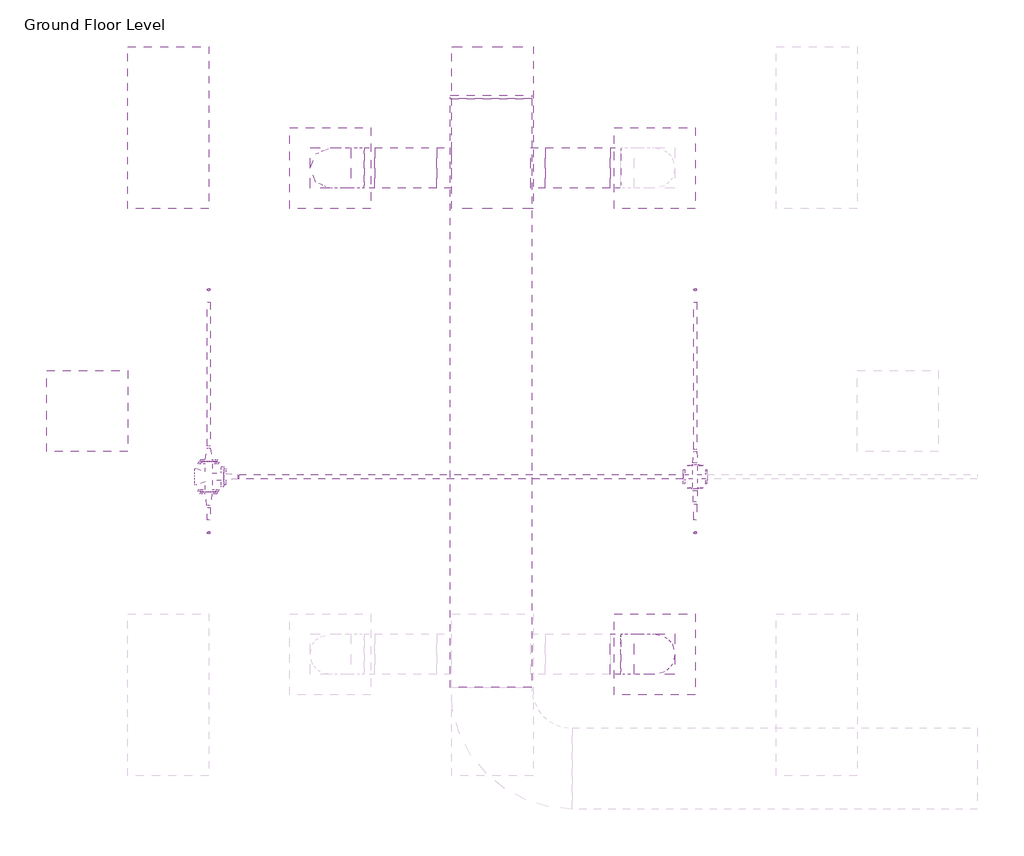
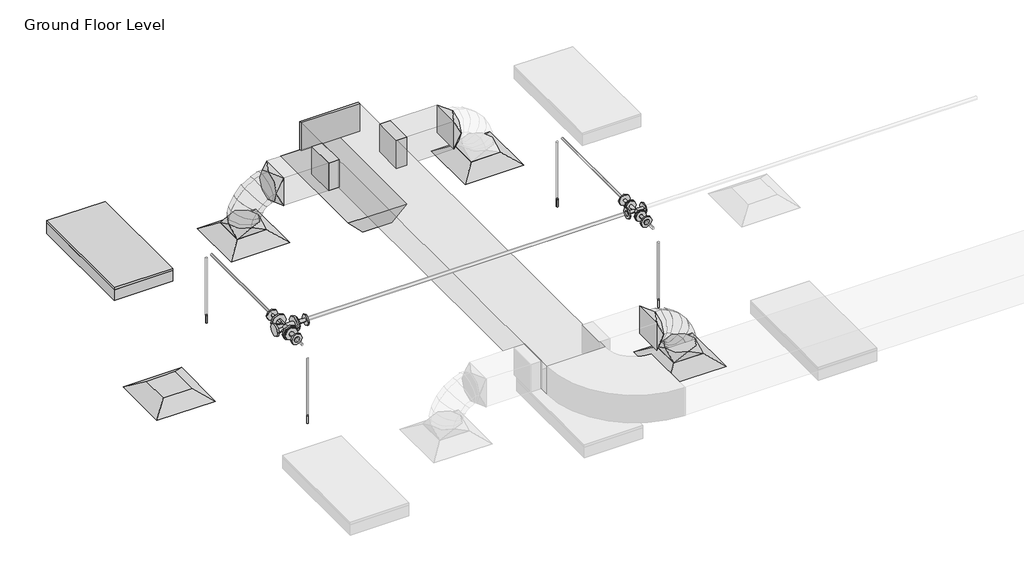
# One storey, part 10 of 74: 9 pipe segments, 8 duct fittings, 7 pipe fittings, 5 duct segments, 4 air terminals, 4 fire suppression terminals, 2 light fixtures.
"""IFC4 building model written with IfcOpenShell, lengths in millimetres."""

from ifc_helpers import new_model, si_unit, point, frame, frame_2d, origin, place, context, project, spatial, polyline, circle_curve, ellipse_curve, trimmed, segment, composite_curve, outline, extrude, transform, mapped, element, save
from ifc_brep_helpers import plane_surface, cylinder_surface, advanced_brep
from components import m_return_diffuser_600_x_600_face_300_x_300_connection_ff221211, m_rectangular_endcap_standard_0f0ff112, m_rectangular_takeoff_standard_cb0ccb98, m_rectangular_takeoff_standard_2be5eba1, m_rectangular_to_round_transition_angle_45_degree_641efff0, m_sprinkler_dry_pendent_hosted_15_mm_dry_pendent_9bda8e11, m_emergency_recessed_lighting_fixture_600x1200_277_5b10b25d, m_troffer_light_parabolic_rectangular1_0600x1200mm_4_lamp_86473d4a, m_cross_flanged_cs_class_150_standard_16d34c5c, m_reducer_flanged_cs_class_150_standard_ccf252ad, m_reducer_flanged_cs_class_150_standard_8338f9e4, m_reducer_flanged_cs_class_150_standard_dc68ad9d, m_tee_round_base_flanged_cs_class_150_standard_ab36f383

model = new_model("IFC4")

# Units and contexts
model_context = context("Model", 3, world=origin())
ifc_project = project(units=[si_unit("LENGTHUNIT", "METRE", prefix="MILLI")], contexts=[model_context])

# Site, building, storey
site = spatial("IfcSite", under=ifc_project)
building = spatial("IfcBuilding", under=site)
storey = spatial("IfcBuildingStorey", under=building, Name="Ground Floor Level", Elevation=900.0)

# Air terminals
placement = place(None, origin())
m_return_diffuser_600_x_600_face_300_x_300_connection_shape = m_return_diffuser_600_x_600_face_300_x_300_connection_ff221211(model_context)
element("IfcAirTerminal", 1, ObjectType="M_Return Diffuser : 600 x 600 Face 300 x 300 Connection", at=placement, inside=storey, context=model_context, shape_type="MappedRepresentation", body=[
    mapped(m_return_diffuser_600_x_600_face_300_x_300_connection_shape, transform((-20937.2327605, -2464.7846466, 3650.0), x_axis=(1.0, 0.0, 0.0), y_axis=(0.0, 1.0, 0.0), z_axis=(0.0, 0.0, 1.0))),
])
element("IfcAirTerminal", 2, ObjectType="M_Supply Diffuser : 600 x 600 Face 300 x 300 Connection", at=placement, inside=storey, context=model_context, shape_type="MappedRepresentation", body=[
    mapped(m_return_diffuser_600_x_600_face_300_x_300_connection_shape, transform((-19137.2327605, -664.7846466, 3650.0), x_axis=(1.0, 0.0, 0.0), y_axis=(0.0, 1.0, 0.0), z_axis=(0.0, 0.0, 1.0))),
])
element("IfcAirTerminal", 3, ObjectType="M_Supply Diffuser : 600 x 600 Face 300 x 300 Connection", at=placement, inside=storey, context=model_context, shape_type="MappedRepresentation", body=[
    mapped(m_return_diffuser_600_x_600_face_300_x_300_connection_shape, transform((-16737.2327605, -664.7846466, 3650.0), x_axis=(1.0, 0.0, 0.0), y_axis=(0.0, 1.0, 0.0), z_axis=(0.0, 0.0, 1.0))),
])
element("IfcAirTerminal", 4, ObjectType="M_Supply Diffuser : 600 x 600 Face 300 x 300 Connection", at=placement, inside=storey, context=model_context, shape_type="MappedRepresentation", body=[
    mapped(m_return_diffuser_600_x_600_face_300_x_300_connection_shape, transform((-16737.2327605, -4264.7846466, 3650.0), x_axis=(1.0, 0.0, 0.0), y_axis=(0.0, 1.0, 0.0), z_axis=(0.0, 0.0, 1.0))),
])

# Duct fittings
m_rectangular_endcap_standard_shape = m_rectangular_endcap_standard_0f0ff112(model_context)
element("IfcDuctFitting", 5, ObjectType="M_Rectangular Endcap : Standard", at=placement, inside=storey, context=model_context, shape_type="MappedRepresentation", body=[
    mapped(m_rectangular_endcap_standard_shape, transform((-17948.0331707, -151.2845861, 4100.0020149), x_axis=(0.0, 0.999999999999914, 4.148284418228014e-07), y_axis=(-1.0, 0.0, 0.0), z_axis=(0.0, -4.148284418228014e-07, 0.999999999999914))),
])
m_rectangular_takeoff_standard_shape = m_rectangular_takeoff_standard_cb0ccb98(model_context)
element("IfcDuctFitting", 6, ObjectType="M_Rectangular Takeoff : Standard", at=placement, inside=storey, context=model_context, shape_type="MappedRepresentation", body=[
    mapped(m_rectangular_takeoff_standard_shape, transform((-18248.0331707, -664.7846466, 4100.0018019), x_axis=(-1.0, 0.0, 0.0), y_axis=(0.0, 1.0, 0.0), z_axis=(0.0, 0.0, -1.0))),
])
m_rectangular_takeoff_standard_2_shape = m_rectangular_takeoff_standard_2be5eba1(model_context)
element("IfcDuctFitting", 7, ObjectType="M_Rectangular Takeoff : Standard", at=placement, inside=storey, context=model_context, shape_type="MappedRepresentation", body=[
    mapped(m_rectangular_takeoff_standard_2_shape, transform((-17648.0331707, -664.7846466, 4100.0018019), x_axis=(1.0, 0.0, 0.0), y_axis=(0.0, -1.0, 0.0), z_axis=(0.0, 0.0, -1.0))),
])
m_rectangular_to_round_transition_angle_45_degree_shape = m_rectangular_to_round_transition_angle_45_degree_641efff0(model_context)
element("IfcDuctFitting", 8, ObjectType="M_Rectangular to Round Transition - Angle : 45 Degree", at=placement, inside=storey, context=model_context, shape_type="MappedRepresentation", body=[
    mapped(m_rectangular_to_round_transition_angle_45_degree_shape, transform((-19137.2327605, -664.7846466, 3751.6), x_axis=(0.0, 0.0, 1.0), y_axis=(-1.0, 0.0, 0.0), z_axis=(0.0, -1.0, 0.0))),
])
element("IfcDuctFitting", 9, ObjectType="M_Rectangular to Round Transition - Angle : 45 Degree", at=placement, inside=storey, context=model_context, shape_type="MappedRepresentation", body=[
    mapped(m_rectangular_to_round_transition_angle_45_degree_shape, transform((-18809.8986312, -664.7846466, 4100.0018019), x_axis=(-1.0, 0.0, 0.0), y_axis=(0.0, -1.0, 0.0), z_axis=(0.0, 0.0, 1.0))),
])
element("IfcDuctFitting", 10, ObjectType="M_Rectangular to Round Transition - Angle : 45 Degree", at=placement, inside=storey, context=model_context, shape_type="MappedRepresentation", body=[
    mapped(m_rectangular_to_round_transition_angle_45_degree_shape, transform((-17064.5668899, -664.7846466, 4100.0018019), x_axis=(1.0, 0.0, 0.0), y_axis=(0.0, 1.0, 0.0), z_axis=(0.0, 0.0, 1.0))),
])
element("IfcDuctFitting", 11, ObjectType="M_Rectangular to Round Transition - Angle : 45 Degree", at=placement, inside=storey, context=model_context, shape_type="MappedRepresentation", body=[
    mapped(m_rectangular_to_round_transition_angle_45_degree_shape, transform((-16737.2327605, -4264.7846466, 3751.6), x_axis=(0.0, 0.0, 1.0), y_axis=(-1.0, 0.0, 0.0), z_axis=(0.0, -1.0, 0.0))),
])
element("IfcDuctFitting", 12, ObjectType="M_Rectangular to Round Transition - Angle : 45 Degree", at=placement, inside=storey, context=model_context, shape_type="MappedRepresentation", body=[
    mapped(m_rectangular_to_round_transition_angle_45_degree_shape, transform((-17064.5683833, -4264.7846466, 4100.0003085), x_axis=(1.0, 0.0, 0.0), y_axis=(0.0, 1.0, 0.0), z_axis=(0.0, 0.0, 1.0))),
])

# Duct segments
element("IfcDuctSegment", 13, ObjectType="Flex - Round", at=placement, inside=storey, context=model_context, shape_type="AdvancedBrep", body=[
    advanced_brep(
    [(-18987.2327605, -664.7846466, 3826.6), (-19137.2327605, -814.7846466, 3826.6), (-19287.2327605, -664.7846466, 3826.6), (-19137.2327605, -514.7846466, 3826.6), (-18987.2327605, -664.7846466, 3832.5807508), (-19137.2327605, -814.7846466, 3854.3867302), (-19287.2327605, -664.7846466, 3876.1927096), (-19137.2327605, -514.7846466, 3854.3867302), (-18983.2862759, -664.7846466, 3845.8675264), (-19122.8956049, -814.7846466, 3902.6561626), (-19262.5049338, -664.7846466, 3959.4447987), (-19122.8956049, -514.7846466, 3902.6561626), (-18960.1038192, -664.7846466, 3889.9727121), (-19084.1279284, -814.7846466, 3976.4126063), (-19208.1520375, -664.7846466, 4062.8525006), (-19084.1279284, -514.7846466, 3976.4126063), (-18929.332672, -664.7846466, 3924.1202687), (-19027.2954168, -814.7846466, 4039.481149), (-19125.2581615, -664.7846466, 4154.8420293), (-19027.2954168, -514.7846466, 4039.481149), (-18889.6602728, -664.7846466, 3949.5871315), (-18958.7637558, -814.7846466, 4083.4736083), (-19027.8672388, -664.7846466, 4217.3600851), (-18958.7637558, -514.7846466, 4083.4736083), (-18888.6288567, -664.7846466, 3950.0018019), (-18917.6529238, -814.7846466, 4100.0018019), (-18946.676991, -664.7846466, 4250.0018019), (-18917.6529238, -514.7846466, 4100.0018019), (-18884.8986312, -664.7846466, 3950.0018019), (-18884.8986312, -514.7846466, 4100.0018019), (-18884.8986312, -664.7846466, 4250.0018019), (-18884.8986312, -814.7846466, 4100.0018019)],
    [
        (0, 1, circle_curve(frame((-19137.2327605, -664.7846466, 3826.6), z_axis=(0.0, 0.0, -1.0), x_axis=(1.0, 0.0, 0.0)), 150.0)),
        (1, 2, circle_curve(frame((-19137.2327605, -664.7846466, 3826.6), z_axis=(0.0, 0.0, -1.0), x_axis=(1.0, 0.0, 0.0)), 150.0)),
        (2, 3, circle_curve(frame((-19137.2327605, -664.7846466, 3826.6), z_axis=(0.0, 0.0, -1.0), x_axis=(1.0, 0.0, 0.0)), 150.0)),
        (3, 0, circle_curve(frame((-19137.2327605, -664.7846466, 3826.6), z_axis=(0.0, 0.0, -1.0), x_axis=(1.0, 0.0, 0.0)), 150.0)),
        (0, 4),
        (4, 5, ellipse_curve(frame((-19137.2327605, -664.7846466, 3854.3867302), z_axis=(-0.1438610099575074, 0.0, -0.9895979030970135), x_axis=(0.9895979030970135, 0.0, -0.14386100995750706)), 151.5767157, 150.0)),
        (5, 1),
        (5, 6, ellipse_curve(frame((-19137.2327605, -664.7846466, 3854.3867302), z_axis=(-0.1438610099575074, 0.0, -0.9895979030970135), x_axis=(0.9895979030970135, 0.0, -0.14386100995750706)), 151.5767157, 150.0)),
        (6, 2),
        (6, 7, ellipse_curve(frame((-19137.2327605, -664.7846466, 3854.3867302), z_axis=(-0.1438610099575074, 0.0, -0.9895979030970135), x_axis=(0.9895979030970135, 0.0, -0.14386100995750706)), 151.5767157, 150.0)),
        (7, 3),
        (7, 4, ellipse_curve(frame((-19137.2327605, -664.7846466, 3854.3867302), z_axis=(-0.1438610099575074, 0.0, -0.9895979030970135), x_axis=(0.9895979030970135, 0.0, -0.14386100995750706)), 151.5767157, 150.0)),
        (4, 8),
        (8, 9, ellipse_curve(frame((-19122.8956049, -664.7846466, 3902.6561626), z_axis=(-0.37678902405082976, 0.0, -0.9262991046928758), x_axis=(0.9262991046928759, 0.0, -0.37678902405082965)), 150.7173312, 150.0)),
        (9, 5),
        (9, 10, ellipse_curve(frame((-19122.8956049, -664.7846466, 3902.6561626), z_axis=(-0.37678902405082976, 0.0, -0.9262991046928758), x_axis=(0.9262991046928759, 0.0, -0.37678902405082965)), 150.7173312, 150.0)),
        (10, 6),
        (10, 11, ellipse_curve(frame((-19122.8956049, -664.7846466, 3902.6561626), z_axis=(-0.37678902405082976, 0.0, -0.9262991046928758), x_axis=(0.9262991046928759, 0.0, -0.37678902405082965)), 150.7173312, 150.0)),
        (11, 7),
        (11, 8, ellipse_curve(frame((-19122.8956049, -664.7846466, 3902.6561626), z_axis=(-0.37678902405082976, 0.0, -0.9262991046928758), x_axis=(0.9262991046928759, 0.0, -0.37678902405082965)), 150.7173312, 150.0)),
        (8, 12),
        (12, 13, ellipse_curve(frame((-19084.1279284, -664.7846466, 3976.4126063), z_axis=(-0.5717875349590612, 0.0, -0.8204017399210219), x_axis=(0.8204017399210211, 0.0, -0.5717875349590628)), 151.174849, 150.0)),
        (13, 9),
        (13, 14, ellipse_curve(frame((-19084.1279284, -664.7846466, 3976.4126063), z_axis=(-0.5717875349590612, 0.0, -0.8204017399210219), x_axis=(0.8204017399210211, 0.0, -0.5717875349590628)), 151.174849, 150.0)),
        (14, 10),
        (14, 15, ellipse_curve(frame((-19084.1279284, -664.7846466, 3976.4126063), z_axis=(-0.5717875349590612, 0.0, -0.8204017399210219), x_axis=(0.8204017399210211, 0.0, -0.5717875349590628)), 151.174849, 150.0)),
        (15, 11),
        (15, 12, ellipse_curve(frame((-19084.1279284, -664.7846466, 3976.4126063), z_axis=(-0.5717875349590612, 0.0, -0.8204017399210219), x_axis=(0.8204017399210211, 0.0, -0.5717875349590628)), 151.174849, 150.0)),
        (12, 16),
        (16, 17, ellipse_curve(frame((-19027.2954168, -664.7846466, 4039.481149), z_axis=(-0.7622457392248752, 0.0, -0.6472877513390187), x_axis=(0.6472877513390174, 0.0, -0.7622457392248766)), 151.3434242, 150.0)),
        (17, 13),
        (17, 18, ellipse_curve(frame((-19027.2954168, -664.7846466, 4039.481149), z_axis=(-0.7622457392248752, 0.0, -0.6472877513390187), x_axis=(0.6472877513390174, 0.0, -0.7622457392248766)), 151.3434242, 150.0)),
        (18, 14),
        (18, 19, ellipse_curve(frame((-19027.2954168, -664.7846466, 4039.481149), z_axis=(-0.7622457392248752, 0.0, -0.6472877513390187), x_axis=(0.6472877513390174, 0.0, -0.7622457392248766)), 151.3434242, 150.0)),
        (19, 15),
        (19, 16, ellipse_curve(frame((-19027.2954168, -664.7846466, 4039.481149), z_axis=(-0.7622457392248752, 0.0, -0.6472877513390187), x_axis=(0.6472877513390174, 0.0, -0.7622457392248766)), 151.3434242, 150.0)),
        (16, 20),
        (20, 21, ellipse_curve(frame((-18958.7637558, -664.7846466, 4083.4736083), z_axis=(-0.8886185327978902, 0.0, -0.45864703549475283), x_axis=(0.4586470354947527, 0.0, -0.8886185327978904)), 150.6681122, 150.0)),
        (21, 17),
        (21, 22, ellipse_curve(frame((-18958.7637558, -664.7846466, 4083.4736083), z_axis=(-0.8886185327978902, 0.0, -0.45864703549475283), x_axis=(0.4586470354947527, 0.0, -0.8886185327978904)), 150.6681122, 150.0)),
        (22, 18),
        (22, 23, ellipse_curve(frame((-18958.7637558, -664.7846466, 4083.4736083), z_axis=(-0.8886185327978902, 0.0, -0.45864703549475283), x_axis=(0.4586470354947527, 0.0, -0.8886185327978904)), 150.6681122, 150.0)),
        (23, 19),
        (23, 20, ellipse_curve(frame((-18958.7637558, -664.7846466, 4083.4736083), z_axis=(-0.8886185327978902, 0.0, -0.45864703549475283), x_axis=(0.4586470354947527, 0.0, -0.8886185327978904)), 150.6681122, 150.0)),
        (20, 24),
        (24, 25, ellipse_curve(frame((-18917.6529238, -664.7846466, 4100.0018019), z_axis=(-0.9817898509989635, 0.0, -0.18997023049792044), x_axis=(0.18997023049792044, 0.0, -0.9817898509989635)), 152.7821864, 150.0)),
        (25, 21),
        (25, 26, ellipse_curve(frame((-18917.6529238, -664.7846466, 4100.0018019), z_axis=(-0.9817898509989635, 0.0, -0.18997023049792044), x_axis=(0.18997023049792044, 0.0, -0.9817898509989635)), 152.7821864, 150.0)),
        (26, 22),
        (26, 27, ellipse_curve(frame((-18917.6529238, -664.7846466, 4100.0018019), z_axis=(-0.9817898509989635, 0.0, -0.18997023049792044), x_axis=(0.18997023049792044, 0.0, -0.9817898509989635)), 152.7821864, 150.0)),
        (27, 23),
        (27, 24, ellipse_curve(frame((-18917.6529238, -664.7846466, 4100.0018019), z_axis=(-0.9817898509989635, 0.0, -0.18997023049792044), x_axis=(0.18997023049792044, 0.0, -0.9817898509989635)), 152.7821864, 150.0)),
        (28, 29, circle_curve(frame((-18884.8986312, -664.7846466, 4100.0018019), z_axis=(1.0, 0.0, 0.0), x_axis=(0.0, 0.0, -1.0)), 150.0)),
        (29, 30, circle_curve(frame((-18884.8986312, -664.7846466, 4100.0018019), z_axis=(1.0, 0.0, 0.0), x_axis=(0.0, 0.0, -1.0)), 150.0)),
        (30, 31, circle_curve(frame((-18884.8986312, -664.7846466, 4100.0018019), z_axis=(1.0, 0.0, 0.0), x_axis=(0.0, 0.0, -1.0)), 150.0)),
        (31, 28, circle_curve(frame((-18884.8986312, -664.7846466, 4100.0018019), z_axis=(1.0, 0.0, 0.0), x_axis=(0.0, 0.0, -1.0)), 150.0)),
        (24, 28),
        (31, 25),
        (30, 26),
        (29, 27),
    ],
    [
        plane_surface(frame((-19137.2327605, -814.7846466, 3826.6), z_axis=(0.0, 0.0, -1.0), x_axis=(1.0, 0.0, 0.0))),
        cylinder_surface(frame((-19137.2327605, -664.7846466, 3826.6), z_axis=(0.0, 0.0, -1.0), x_axis=(1.0, 0.0, 0.0)), 150.0),
        cylinder_surface(frame((-19137.2327605, -664.7846466, 3854.3867302), z_axis=(-0.28472910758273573, 0.0, -0.958608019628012), x_axis=(0.958608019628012, 0.0, -0.28472910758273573)), 150.0),
        cylinder_surface(frame((-19122.8956049, -664.7846466, 3902.6561626), z_axis=(-0.46526232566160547, 0.0, -0.8851728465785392), x_axis=(0.8851728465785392, 0.0, -0.46526232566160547)), 150.0),
        cylinder_surface(frame((-19084.1279284, -664.7846466, 3976.4126063), z_axis=(-0.6694254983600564, 0.0, -0.7428791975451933), x_axis=(0.7428791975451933, 0.0, -0.6694254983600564)), 150.0),
        cylinder_surface(frame((-19027.2954168, -664.7846466, 4039.481149), z_axis=(-0.8415335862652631, 0.0, -0.5402047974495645), x_axis=(0.5402047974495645, 0.0, -0.8415335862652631)), 150.0),
        cylinder_surface(frame((-18958.7637558, -664.7846466, 4083.4736083), z_axis=(-0.9278226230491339, 0.0, -0.3730216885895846), x_axis=(0.3730216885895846, 0.0, -0.9278226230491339)), 150.0),
        plane_surface(frame((-18884.8986312, -664.7846466, 3950.0018019), z_axis=(1.0, 0.0, 0.0), x_axis=(0.0, 1.0, 0.0))),
        cylinder_surface(frame((-18917.6529238, -664.7846466, 4100.0018019), z_axis=(-1.0, 0.0, 0.0), x_axis=(0.0, 0.0, -1.0)), 150.0),
    ],
    [
        (0, [[1, 2, 3, 4]]),
        (1, [[-1, 5, 6, 7]]),
        (1, [[-2, -7, 8, 9]]),
        (1, [[-3, -9, 10, 11]]),
        (1, [[-4, -11, 12, -5]]),
        (2, [[-6, 13, 14, 15]]),
        (2, [[-8, -15, 16, 17]]),
        (2, [[-10, -17, 18, 19]]),
        (2, [[-12, -19, 20, -13]]),
        (3, [[-14, 21, 22, 23]]),
        (3, [[-16, -23, 24, 25]]),
        (3, [[-18, -25, 26, 27]]),
        (3, [[-20, -27, 28, -21]]),
        (4, [[-22, 29, 30, 31]]),
        (4, [[-24, -31, 32, 33]]),
        (4, [[-26, -33, 34, 35]]),
        (4, [[-28, -35, 36, -29]]),
        (5, [[-30, 37, 38, 39]]),
        (5, [[-32, -39, 40, 41]]),
        (5, [[-34, -41, 42, 43]]),
        (5, [[-36, -43, 44, -37]]),
        (6, [[-38, 45, 46, 47]]),
        (6, [[-40, -47, 48, 49]]),
        (6, [[-42, -49, 50, 51]]),
        (6, [[-44, -51, 52, -45]]),
        (7, [[53, 54, 55, 56]]),
        (8, [[-46, 57, -56, 58]]),
        (8, [[-48, -58, -55, 59]]),
        (8, [[-50, -59, -54, 60]]),
        (8, [[-52, -60, -53, -57]]),
    ],
),
])
element("IfcDuctSegment", 14, ObjectType="Flex - Round", at=placement, inside=storey, context=model_context, shape_type="AdvancedBrep", body=[
    advanced_brep(
    [(-16587.2327605, -4264.7846466, 3826.6), (-16737.2327605, -4414.7846466, 3826.6), (-16887.2327605, -4264.7846466, 3826.6), (-16737.2327605, -4114.7846466, 3826.6), (-16587.2327605, -4264.7846466, 3876.1935198), (-16737.2327605, -4414.7846466, 3854.3870846), (-16887.2327605, -4264.7846466, 3832.5806494), (-16737.2327605, -4114.7846466, 3854.3870846), (-16611.9610858, -4264.7846466, 3959.4454718), (-16751.5700742, -4414.7846466, 3902.6559964), (-16891.1790626, -4264.7846466, 3845.866521), (-16751.5700742, -4114.7846466, 3902.6559964), (-16666.3145875, -4264.7846466, 4062.8528022), (-16790.3381265, -4414.7846466, 3976.4120685), (-16914.3616655, -4264.7846466, 3889.9713348), (-16790.3381265, -4114.7846466, 3976.4120685), (-16749.20913, -4264.7846466, 4154.8417097), (-16847.1710842, -4414.7846466, 4039.4801732), (-16945.1330384, -4264.7846466, 3924.1186367), (-16847.1710842, -4114.7846466, 4039.4801732), (-16846.6005358, -4264.7846466, 4217.3592203), (-16915.7031142, -4414.7846466, 4083.4722675), (-16984.8056925, -4264.7846466, 3949.5853148), (-16915.7031142, -4114.7846466, 4083.4722675), (-16927.7909443, -4264.7846466, 4250.0003085), (-16956.8144396, -4414.7846466, 4100.0003085), (-16985.8379349, -4264.7846466, 3950.0003085), (-16956.8144396, -4114.7846466, 4100.0003085), (-16989.5683833, -4264.7846466, 4250.0003085), (-16989.5683833, -4114.7846466, 4100.0003085), (-16989.5683833, -4264.7846466, 3950.0003085), (-16989.5683833, -4414.7846466, 4100.0003085)],
    [
        (0, 1, circle_curve(frame((-16737.2327605, -4264.7846466, 3826.6), z_axis=(0.0, 0.0, -1.0), x_axis=(1.0, 0.0, 0.0)), 150.0)),
        (1, 2, circle_curve(frame((-16737.2327605, -4264.7846466, 3826.6), z_axis=(0.0, 0.0, -1.0), x_axis=(1.0, 0.0, 0.0)), 150.0)),
        (2, 3, circle_curve(frame((-16737.2327605, -4264.7846466, 3826.6), z_axis=(0.0, 0.0, -1.0), x_axis=(1.0, 0.0, 0.0)), 150.0)),
        (3, 0, circle_curve(frame((-16737.2327605, -4264.7846466, 3826.6), z_axis=(0.0, 0.0, -1.0), x_axis=(1.0, 0.0, 0.0)), 150.0)),
        (0, 4),
        (4, 5, ellipse_curve(frame((-16737.2327605, -4264.7846466, 3854.3870846), z_axis=(0.14386395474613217, 0.0, -0.9895974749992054), x_axis=(-0.9895974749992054, 0.0, -0.14386395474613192)), 151.5767813, 150.0)),
        (5, 1),
        (5, 6, ellipse_curve(frame((-16737.2327605, -4264.7846466, 3854.3870846), z_axis=(0.14386395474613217, 0.0, -0.9895974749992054), x_axis=(-0.9895974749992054, 0.0, -0.14386395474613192)), 151.5767813, 150.0)),
        (6, 2),
        (6, 7, ellipse_curve(frame((-16737.2327605, -4264.7846466, 3854.3870846), z_axis=(0.14386395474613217, 0.0, -0.9895974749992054), x_axis=(-0.9895974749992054, 0.0, -0.14386395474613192)), 151.5767813, 150.0)),
        (7, 3),
        (7, 4, ellipse_curve(frame((-16737.2327605, -4264.7846466, 3854.3870846), z_axis=(0.14386395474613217, 0.0, -0.9895974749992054), x_axis=(-0.9895974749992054, 0.0, -0.14386395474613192)), 151.5767813, 150.0)),
        (4, 8),
        (8, 9, ellipse_curve(frame((-16751.5700742, -4264.7846466, 3902.6559964), z_axis=(0.3767945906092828, 0.0, -0.9262968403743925), x_axis=(-0.926296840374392, 0.0, -0.37679459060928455)), 150.717332, 150.0)),
        (9, 5),
        (9, 10, ellipse_curve(frame((-16751.5700742, -4264.7846466, 3902.6559964), z_axis=(0.3767945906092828, 0.0, -0.9262968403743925), x_axis=(-0.926296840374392, 0.0, -0.37679459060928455)), 150.717332, 150.0)),
        (10, 6),
        (10, 11, ellipse_curve(frame((-16751.5700742, -4264.7846466, 3902.6559964), z_axis=(0.3767945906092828, 0.0, -0.9262968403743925), x_axis=(-0.926296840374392, 0.0, -0.37679459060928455)), 150.717332, 150.0)),
        (11, 7),
        (11, 8, ellipse_curve(frame((-16751.5700742, -4264.7846466, 3902.6559964), z_axis=(0.3767945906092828, 0.0, -0.9262968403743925), x_axis=(-0.926296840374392, 0.0, -0.37679459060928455)), 150.717332, 150.0)),
        (8, 12),
        (12, 13, ellipse_curve(frame((-16790.3381265, -4264.7846466, 3976.4120685), z_axis=(0.5717930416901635, 0.0, -0.8203979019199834), x_axis=(-0.820397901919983, 0.0, -0.5717930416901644)), 151.1748612, 150.0)),
        (13, 9),
        (13, 14, ellipse_curve(frame((-16790.3381265, -4264.7846466, 3976.4120685), z_axis=(0.5717930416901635, 0.0, -0.8203979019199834), x_axis=(-0.820397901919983, 0.0, -0.5717930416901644)), 151.1748612, 150.0)),
        (14, 10),
        (14, 15, ellipse_curve(frame((-16790.3381265, -4264.7846466, 3976.4120685), z_axis=(0.5717930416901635, 0.0, -0.8203979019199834), x_axis=(-0.820397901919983, 0.0, -0.5717930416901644)), 151.1748612, 150.0)),
        (15, 11),
        (15, 12, ellipse_curve(frame((-16790.3381265, -4264.7846466, 3976.4120685), z_axis=(0.5717930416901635, 0.0, -0.8203979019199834), x_axis=(-0.820397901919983, 0.0, -0.5717930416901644)), 151.1748612, 150.0)),
        (12, 16),
        (16, 17, ellipse_curve(frame((-16847.1710842, -4264.7846466, 4039.4801732), z_axis=(0.7622501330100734, 0.0, -0.6472825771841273), x_axis=(-0.6472825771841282, 0.0, -0.7622501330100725)), 151.3434127, 150.0)),
        (17, 13),
        (17, 18, ellipse_curve(frame((-16847.1710842, -4264.7846466, 4039.4801732), z_axis=(0.7622501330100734, 0.0, -0.6472825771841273), x_axis=(-0.6472825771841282, 0.0, -0.7622501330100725)), 151.3434127, 150.0)),
        (18, 14),
        (18, 19, ellipse_curve(frame((-16847.1710842, -4264.7846466, 4039.4801732), z_axis=(0.7622501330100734, 0.0, -0.6472825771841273), x_axis=(-0.6472825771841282, 0.0, -0.7622501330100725)), 151.3434127, 150.0)),
        (19, 15),
        (19, 16, ellipse_curve(frame((-16847.1710842, -4264.7846466, 4039.4801732), z_axis=(0.7622501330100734, 0.0, -0.6472825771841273), x_axis=(-0.6472825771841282, 0.0, -0.7622501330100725)), 151.3434127, 150.0)),
        (16, 20),
        (20, 21, ellipse_curve(frame((-16915.7031142, -4264.7846466, 4083.4722675), z_axis=(0.8886216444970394, 0.0, -0.45864100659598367), x_axis=(-0.45864100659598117, 0.0, -0.8886216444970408)), 150.6681202, 150.0)),
        (21, 17),
        (21, 22, ellipse_curve(frame((-16915.7031142, -4264.7846466, 4083.4722675), z_axis=(0.8886216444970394, 0.0, -0.45864100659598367), x_axis=(-0.45864100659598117, 0.0, -0.8886216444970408)), 150.6681202, 150.0)),
        (22, 18),
        (22, 23, ellipse_curve(frame((-16915.7031142, -4264.7846466, 4083.4722675), z_axis=(0.8886216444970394, 0.0, -0.45864100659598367), x_axis=(-0.45864100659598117, 0.0, -0.8886216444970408)), 150.6681202, 150.0)),
        (23, 19),
        (23, 20, ellipse_curve(frame((-16915.7031142, -4264.7846466, 4083.4722675), z_axis=(0.8886216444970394, 0.0, -0.45864100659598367), x_axis=(-0.45864100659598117, 0.0, -0.8886216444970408)), 150.6681202, 150.0)),
        (20, 24),
        (24, 25, ellipse_curve(frame((-16956.8144396, -4264.7846466, 4100.0003085), z_axis=(0.9817905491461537, 0.0, -0.18996662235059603), x_axis=(-0.18996662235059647, 0.0, -0.9817905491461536)), 152.7820777, 150.0)),
        (25, 21),
        (25, 26, ellipse_curve(frame((-16956.8144396, -4264.7846466, 4100.0003085), z_axis=(0.9817905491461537, 0.0, -0.18996662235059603), x_axis=(-0.18996662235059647, 0.0, -0.9817905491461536)), 152.7820777, 150.0)),
        (26, 22),
        (26, 27, ellipse_curve(frame((-16956.8144396, -4264.7846466, 4100.0003085), z_axis=(0.9817905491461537, 0.0, -0.18996662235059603), x_axis=(-0.18996662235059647, 0.0, -0.9817905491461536)), 152.7820777, 150.0)),
        (27, 23),
        (27, 24, ellipse_curve(frame((-16956.8144396, -4264.7846466, 4100.0003085), z_axis=(0.9817905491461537, 0.0, -0.18996662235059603), x_axis=(-0.18996662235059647, 0.0, -0.9817905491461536)), 152.7820777, 150.0)),
        (28, 29, circle_curve(frame((-16989.5683833, -4264.7846466, 4100.0003085), z_axis=(-1.0, 0.0, 0.0), x_axis=(0.0, 0.0, 1.0)), 150.0)),
        (29, 30, circle_curve(frame((-16989.5683833, -4264.7846466, 4100.0003085), z_axis=(-1.0, 0.0, 0.0), x_axis=(0.0, 0.0, 1.0)), 150.0)),
        (30, 31, circle_curve(frame((-16989.5683833, -4264.7846466, 4100.0003085), z_axis=(-1.0, 0.0, 0.0), x_axis=(0.0, 0.0, 1.0)), 150.0)),
        (31, 28, circle_curve(frame((-16989.5683833, -4264.7846466, 4100.0003085), z_axis=(-1.0, 0.0, 0.0), x_axis=(0.0, 0.0, 1.0)), 150.0)),
        (24, 28),
        (31, 25),
        (30, 26),
        (29, 27),
    ],
    [
        plane_surface(frame((-16737.2327605, -4414.7846466, 3826.6), z_axis=(0.0, 0.0, -1.0), x_axis=(1.0, 0.0, 0.0))),
        cylinder_surface(frame((-16737.2327605, -4264.7846466, 3826.6), z_axis=(0.0, 0.0, -1.0), x_axis=(1.0, 0.0, 0.0)), 150.0),
        cylinder_surface(frame((-16737.2327605, -4264.7846466, 3854.3870846), z_axis=(0.2847348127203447, 0.0, -0.9586063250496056), x_axis=(0.9586063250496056, 0.0, 0.2847348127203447)), 150.0),
        cylinder_surface(frame((-16751.5700742, -4264.7846466, 3902.6559964), z_axis=(0.4652676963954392, 0.0, -0.8851700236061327), x_axis=(0.8851700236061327, 0.0, 0.4652676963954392)), 150.0),
        cylinder_surface(frame((-16790.3381265, -4264.7846466, 3976.4120685), z_axis=(0.6694309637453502, 0.0, -0.7428742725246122), x_axis=(0.7428742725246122, 0.0, 0.6694309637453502)), 150.0),
        cylinder_surface(frame((-16847.1710842, -4264.7846466, 4039.4801732), z_axis=(0.841536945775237, 0.0, -0.5401995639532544), x_axis=(0.5401995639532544, 0.0, 0.841536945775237)), 150.0),
        cylinder_surface(frame((-16915.7031142, -4264.7846466, 4083.4722675), z_axis=(0.9278253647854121, 0.0, -0.37301486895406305), x_axis=(0.37301486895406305, 0.0, 0.9278253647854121)), 150.0),
        plane_surface(frame((-16989.5683833, -4264.7846466, 3950.0003085), z_axis=(-1.0, 0.0, 0.0), x_axis=(0.0, -1.0, 0.0))),
        cylinder_surface(frame((-16956.8144396, -4264.7846466, 4100.0003085), z_axis=(1.0, 0.0, 0.0), x_axis=(0.0, 0.0, 1.0)), 150.0),
    ],
    [
        (0, [[1, 2, 3, 4]]),
        (1, [[-1, 5, 6, 7]]),
        (1, [[-2, -7, 8, 9]]),
        (1, [[-3, -9, 10, 11]]),
        (1, [[-4, -11, 12, -5]]),
        (2, [[-6, 13, 14, 15]]),
        (2, [[-8, -15, 16, 17]]),
        (2, [[-10, -17, 18, 19]]),
        (2, [[-12, -19, 20, -13]]),
        (3, [[-14, 21, 22, 23]]),
        (3, [[-16, -23, 24, 25]]),
        (3, [[-18, -25, 26, 27]]),
        (3, [[-20, -27, 28, -21]]),
        (4, [[-22, 29, 30, 31]]),
        (4, [[-24, -31, 32, 33]]),
        (4, [[-26, -33, 34, 35]]),
        (4, [[-28, -35, 36, -29]]),
        (5, [[-30, 37, 38, 39]]),
        (5, [[-32, -39, 40, 41]]),
        (5, [[-34, -41, 42, 43]]),
        (5, [[-36, -43, 44, -37]]),
        (6, [[-38, 45, 46, 47]]),
        (6, [[-40, -47, 48, 49]]),
        (6, [[-42, -49, 50, 51]]),
        (6, [[-44, -51, 52, -45]]),
        (7, [[53, 54, 55, 56]]),
        (8, [[-46, 57, -56, 58]]),
        (8, [[-48, -58, -55, 59]]),
        (8, [[-50, -59, -54, 60]]),
        (8, [[-52, -60, -53, -57]]),
    ],
),
])
element("IfcDuctSegment", 15, ObjectType="Radius Elbows / Taps", at=placement, inside=storey, context=model_context, shape_type="SweptSolid", body=[
    extrude(outline(polyline([(-17648.0331707, -4511.2846466), (-18248.0331707, -4511.2846466), (-18248.0331707, -151.2845861), (-17648.0331707, -151.2845861), (-17648.0331707, -4511.2846466)])), frame((0.0, 0.0, 3950.0002063), z_axis=(0.0, 0.0, 1.0), x_axis=(1.0, 0.0, 0.0)), (0.0, 0.0, 1.0), 300.0),
])
element("IfcDuctSegment", 16, ObjectType="Radius Elbows / Taps", at=placement, inside=storey, context=model_context, shape_type="SweptSolid", body=[
    extrude(outline(polyline([(-17546.4331707, -814.7846466), (-17546.4331707, -514.7846466), (-17064.5668899, -514.7846466), (-17064.5668899, -814.7846466), (-17546.4331707, -814.7846466)])), frame((0.0, 0.0, 3950.0018019), z_axis=(0.0, 0.0, 1.0), x_axis=(1.0, 0.0, 0.0)), (0.0, 0.0, 1.0), 300.0),
])
element("IfcDuctSegment", 17, ObjectType="Radius Elbows / Taps", at=placement, inside=storey, context=model_context, shape_type="SweptSolid", body=[
    extrude(outline(polyline([(-18349.6331707, -514.7846466), (-18349.6331707, -814.7846466), (-18809.8986312, -814.7846466), (-18809.8986312, -514.7846466), (-18349.6331707, -514.7846466)])), frame((0.0, 0.0, 3950.0018019), z_axis=(0.0, 0.0, 1.0), x_axis=(1.0, 0.0, 0.0)), (0.0, 0.0, 1.0), 300.0),
])

# Fire suppression terminals
m_sprinkler_dry_pendent_hosted_15_mm_dry_pendent_shape = m_sprinkler_dry_pendent_hosted_15_mm_dry_pendent_9bda8e11(model_context)
element("IfcFireSuppressionTerminal", 18, ObjectType="M_Sprinkler - Dry - Pendent - Hosted : 15 mm Dry Pendent", at=placement, inside=storey, context=model_context, shape_type="MappedRepresentation", body=[
    mapped(m_sprinkler_dry_pendent_hosted_15_mm_dry_pendent_shape, transform((-20037.2327605, -1564.7846466, 3650.0), x_axis=(1.0, 0.0, 0.0), y_axis=(0.0, -1.0, 0.0), z_axis=(0.0, 0.0, -1.0))),
])
element("IfcFireSuppressionTerminal", 19, ObjectType="M_Sprinkler - Dry - Pendent - Hosted : 15 mm Dry Pendent", at=placement, inside=storey, context=model_context, shape_type="MappedRepresentation", body=[
    mapped(m_sprinkler_dry_pendent_hosted_15_mm_dry_pendent_shape, transform((-16437.2327605, -1564.7846466, 3650.0), x_axis=(1.0, 0.0, 0.0), y_axis=(0.0, -1.0, 0.0), z_axis=(0.0, 0.0, -1.0))),
])
element("IfcFireSuppressionTerminal", 20, ObjectType="M_Sprinkler - Dry - Pendent - Hosted : 15 mm Dry Pendent", at=placement, inside=storey, context=model_context, shape_type="MappedRepresentation", body=[
    mapped(m_sprinkler_dry_pendent_hosted_15_mm_dry_pendent_shape, transform((-16437.2327605, -3364.7846466, 3650.0), x_axis=(1.0, 0.0, 0.0), y_axis=(0.0, -1.0, 0.0), z_axis=(0.0, 0.0, -1.0))),
])
element("IfcFireSuppressionTerminal", 21, ObjectType="M_Sprinkler - Dry - Pendent - Hosted : 15 mm Dry Pendent", at=placement, inside=storey, context=model_context, shape_type="MappedRepresentation", body=[
    mapped(m_sprinkler_dry_pendent_hosted_15_mm_dry_pendent_shape, transform((-20037.2327605, -3364.7846466, 3650.0), x_axis=(1.0, 0.0, 0.0), y_axis=(0.0, -1.0, 0.0), z_axis=(0.0, 0.0, -1.0))),
])

# Light fixtures
m_emergency_recessed_lighting_fixture_600x1200_277_shape = m_emergency_recessed_lighting_fixture_600x1200_277_5b10b25d(model_context)
element("IfcLightFixture", 22, ObjectType="M_Emergency Recessed Lighting Fixture : 600x1200 - 277", at=placement, inside=storey, context=model_context, shape_type="MappedRepresentation", body=[
    mapped(m_emergency_recessed_lighting_fixture_600x1200_277_shape, transform((-18237.2327605, -964.7846466, 3650.0), x_axis=(0.0, 1.0, 0.0), y_axis=(-1.0, 0.0, 0.0), z_axis=(0.0, 0.0, 1.0))),
])
m_troffer_light_parabolic_rectangular1_0600x1200mm_4_lamp_shape = m_troffer_light_parabolic_rectangular1_0600x1200mm_4_lamp_86473d4a(model_context)
element("IfcLightFixture", 23, ObjectType="M_Troffer Light - Parabolic Rectangular1 : 0600x1200mm(4 Lamp) - 277V 2", at=placement, inside=storey, context=model_context, shape_type="MappedRepresentation", body=[
    mapped(m_troffer_light_parabolic_rectangular1_0600x1200mm_4_lamp_shape, transform((-20396.6986926, -346.081145, 3650.0), x_axis=(0.0, 1.0, 0.0), y_axis=(-1.0, 0.0, 0.0), z_axis=(0.0, 0.0, 1.0))),
])

# Pipe fittings
m_cross_flanged_cs_class_150_standard_shape = m_cross_flanged_cs_class_150_standard_16d34c5c(model_context)
element("IfcPipeFitting", 24, ObjectType="M_Cross - Flanged - CS - Class 150 : Standard", at=placement, inside=storey, context=model_context, shape_type="MappedRepresentation", body=[
    mapped(m_cross_flanged_cs_class_150_standard_shape, transform((-16437.2327605, -2950.3491993, 4360.0), x_axis=(1.0, 0.0, 0.0), y_axis=(0.0, -1.0, 0.0), z_axis=(0.0, 0.0, -1.0))),
])
m_reducer_flanged_cs_class_150_standard_shape = m_reducer_flanged_cs_class_150_standard_ccf252ad(model_context)
element("IfcPipeFitting", 25, ObjectType="M_Reducer - Flanged - CS - Class 150 : Standard", at=placement, inside=storey, context=model_context, shape_type="MappedRepresentation", body=[
    mapped(m_reducer_flanged_cs_class_150_standard_shape, transform((-16437.2327605, -2861.3491993, 4360.0), x_axis=(0.0, 1.0, 0.0), y_axis=(-1.0, 0.0, 0.0), z_axis=(0.0, 0.0, 1.0))),
])
element("IfcPipeFitting", 26, ObjectType="M_Reducer - Flanged - CS - Class 150 : Standard", at=placement, inside=storey, context=model_context, shape_type="MappedRepresentation", body=[
    mapped(m_reducer_flanged_cs_class_150_standard_shape, transform((-16437.2327605, -3039.3491993, 4360.0), x_axis=(0.0, -1.0, 0.0), y_axis=(1.0, 0.0, 0.0), z_axis=(0.0, 0.0, 1.0))),
])
m_reducer_flanged_cs_class_150_standard_2_shape = m_reducer_flanged_cs_class_150_standard_8338f9e4(model_context)
element("IfcPipeFitting", 27, ObjectType="M_Reducer - Flanged - CS - Class 150 : Standard", at=placement, inside=storey, context=model_context, shape_type="MappedRepresentation", body=[
    mapped(m_reducer_flanged_cs_class_150_standard_2_shape, transform((-19924.9741668, -2950.3491993, 4360.0), x_axis=(1.0, 0.0, 0.0), y_axis=(0.0, 1.0, 0.0), z_axis=(0.0, 0.0, 1.0))),
])
m_reducer_flanged_cs_class_150_standard_3_shape = m_reducer_flanged_cs_class_150_standard_dc68ad9d(model_context)
element("IfcPipeFitting", 28, ObjectType="M_Reducer - Flanged - CS - Class 150 : Standard", at=placement, inside=storey, context=model_context, shape_type="MappedRepresentation", body=[
    mapped(m_reducer_flanged_cs_class_150_standard_3_shape, transform((-20037.2327605, -2838.0906055, 4360.0), x_axis=(0.0, 1.0, 0.0), y_axis=(-1.0, 0.0, 0.0), z_axis=(0.0, 0.0, 1.0))),
])
element("IfcPipeFitting", 29, ObjectType="M_Reducer - Flanged - CS - Class 150 : Standard", at=placement, inside=storey, context=model_context, shape_type="MappedRepresentation", body=[
    mapped(m_reducer_flanged_cs_class_150_standard_3_shape, transform((-20037.2327605, -3062.607793, 4360.0), x_axis=(0.0, -1.0, 0.0), y_axis=(1.0, 0.0, 0.0), z_axis=(0.0, 0.0, 1.0))),
])
m_tee_round_base_flanged_cs_class_150_standard_shape = m_tee_round_base_flanged_cs_class_150_standard_ab36f383(model_context)
element("IfcPipeFitting", 30, ObjectType="M_Tee Round Base - Flanged - CS - Class 150 : Standard", at=placement, inside=storey, context=model_context, shape_type="MappedRepresentation", body=[
    mapped(m_tee_round_base_flanged_cs_class_150_standard_shape, transform((-20037.2327605, -2950.3491993, 4360.0), x_axis=(0.0, -1.0, 0.0), y_axis=(-1.0, 0.0, 0.0), z_axis=(0.0, 0.0, -1.0))),
])

# Pipe segments
element("IfcPipeSegment", 31, ObjectType="Steel flanged", at=placement, inside=storey, context=model_context, shape_type="SweptSolid", body=[
    extrude(outline(composite_curve([segment(trimmed(circle_curve(frame_2d((-16437.2327605, -1564.7846466)), 10.668), [point((-16447.9007605, -1564.7846466))], [point((-16437.2327605, -1554.1166466))], False, "CARTESIAN"), True, "CONTINUOUS"), segment(trimmed(circle_curve(frame_2d((-16437.2327605, -1564.7846466)), 10.668), [point((-16437.2327605, -1554.1166466))], [point((-16426.5647605, -1564.7846466))], False, "CARTESIAN"), True, "CONTINUOUS"), segment(trimmed(circle_curve(frame_2d((-16437.2327605, -1564.7846466)), 10.668), [point((-16426.5647605, -1564.7846466))], [point((-16437.2327605, -1575.4526466))], False, "CARTESIAN"), True, "CONTINUOUS"), segment(trimmed(circle_curve(frame_2d((-16437.2327605, -1564.7846466)), 10.668), [point((-16437.2327605, -1575.4526466))], [point((-16447.9007605, -1564.7846466))], False, "CARTESIAN"), True, "CONTINUOUS")], self_intersect=False)), frame((0.0, 0.0, 3650.0), z_axis=(0.0, 0.0, 1.0), x_axis=(1.0, 0.0, 0.0)), (0.0, 0.0, 1.0), 616.9914062),
])
element("IfcPipeSegment", 32, ObjectType="Steel flanged", at=placement, inside=storey, context=model_context, shape_type="SweptSolid", body=[
    extrude(outline(composite_curve([segment(trimmed(circle_curve(frame_2d((4360.0, -16437.2327605)), 10.668), [point((4360.0, -16447.9007605))], [point((4349.332, -16437.2327605))], False, "CARTESIAN"), True, "CONTINUOUS"), segment(trimmed(circle_curve(frame_2d((4360.0, -16437.2327605)), 10.668), [point((4349.332, -16437.2327605))], [point((4360.0, -16426.5647605))], False, "CARTESIAN"), True, "CONTINUOUS"), segment(trimmed(circle_curve(frame_2d((4360.0, -16437.2327605)), 10.668), [point((4360.0, -16426.5647605))], [point((4370.668, -16437.2327605))], False, "CARTESIAN"), True, "CONTINUOUS"), segment(trimmed(circle_curve(frame_2d((4360.0, -16437.2327605)), 10.668), [point((4370.668, -16437.2327605))], [point((4360.0, -16447.9007605))], False, "CARTESIAN"), True, "CONTINUOUS")], self_intersect=False)), frame((0.0, -2747.3491993, 0.0), z_axis=(0.0, 1.0, 0.0), x_axis=(0.0, 0.0, 1.0)), (0.0, 0.0, 1.0), 1089.5559589),
])
element("IfcPipeSegment", 33, ObjectType="Steel flanged", at=placement, inside=storey, context=model_context, shape_type="SweptSolid", body=[
    extrude(outline(composite_curve([segment(trimmed(circle_curve(frame_2d((-2950.3491993, 4360.0)), 16.7005), [point((-2933.6486993, 4360.0))], [point((-2950.3491993, 4343.2995))], False, "CARTESIAN"), True, "CONTINUOUS"), segment(trimmed(circle_curve(frame_2d((-2950.3491993, 4360.0)), 16.7005), [point((-2950.3491993, 4343.2995))], [point((-2967.0496993, 4360.0))], False, "CARTESIAN"), True, "CONTINUOUS"), segment(trimmed(circle_curve(frame_2d((-2950.3491993, 4360.0)), 16.7005), [point((-2967.0496993, 4360.0))], [point((-2950.3491993, 4376.7005))], False, "CARTESIAN"), True, "CONTINUOUS"), segment(trimmed(circle_curve(frame_2d((-2950.3491993, 4360.0)), 16.7005), [point((-2950.3491993, 4376.7005))], [point((-2933.6486993, 4360.0))], False, "CARTESIAN"), True, "CONTINUOUS")], self_intersect=False)), frame((-19810.9741668, 0.0, 0.0), z_axis=(1.0, 0.0, 0.0), x_axis=(0.0, 1.0, 0.0)), (0.0, 0.0, 1.0), 3284.7414063),
])
element("IfcPipeSegment", 34, ObjectType="Steel flanged", at=placement, inside=storey, context=model_context, shape_type="SweptSolid", body=[
    extrude(outline(composite_curve([segment(trimmed(circle_curve(frame_2d((-20037.2327605, -1564.7846466)), 10.668), [point((-20047.9007605, -1564.7846466))], [point((-20037.2327605, -1554.1166466))], False, "CARTESIAN"), True, "CONTINUOUS"), segment(trimmed(circle_curve(frame_2d((-20037.2327605, -1564.7846466)), 10.668), [point((-20037.2327605, -1554.1166466))], [point((-20026.5647605, -1564.7846466))], False, "CARTESIAN"), True, "CONTINUOUS"), segment(trimmed(circle_curve(frame_2d((-20037.2327605, -1564.7846466)), 10.668), [point((-20026.5647605, -1564.7846466))], [point((-20037.2327605, -1575.4526466))], False, "CARTESIAN"), True, "CONTINUOUS"), segment(trimmed(circle_curve(frame_2d((-20037.2327605, -1564.7846466)), 10.668), [point((-20037.2327605, -1575.4526466))], [point((-20047.9007605, -1564.7846466))], False, "CARTESIAN"), True, "CONTINUOUS")], self_intersect=False)), frame((0.0, 0.0, 3650.0), z_axis=(0.0, 0.0, 1.0), x_axis=(1.0, 0.0, 0.0)), (0.0, 0.0, 1.0), 616.9914063),
])
element("IfcPipeSegment", 35, ObjectType="Steel flanged", at=placement, inside=storey, context=model_context, shape_type="SweptSolid", body=[
    extrude(outline(composite_curve([segment(trimmed(circle_curve(frame_2d((4360.0, -20037.2327605)), 10.668), [point((4360.0, -20047.9007605))], [point((4349.332, -20037.2327605))], False, "CARTESIAN"), True, "CONTINUOUS"), segment(trimmed(circle_curve(frame_2d((4360.0, -20037.2327605)), 10.668), [point((4349.332, -20037.2327605))], [point((4360.0, -20026.5647605))], False, "CARTESIAN"), True, "CONTINUOUS"), segment(trimmed(circle_curve(frame_2d((4360.0, -20037.2327605)), 10.668), [point((4360.0, -20026.5647605))], [point((4370.668, -20037.2327605))], False, "CARTESIAN"), True, "CONTINUOUS"), segment(trimmed(circle_curve(frame_2d((4360.0, -20037.2327605)), 10.668), [point((4370.668, -20037.2327605))], [point((4360.0, -20047.9007605))], False, "CARTESIAN"), True, "CONTINUOUS")], self_intersect=False)), frame((0.0, -2724.0906055, 0.0), z_axis=(0.0, 1.0, 0.0), x_axis=(0.0, 0.0, 1.0)), (0.0, 0.0, 1.0), 1066.2973652),
])
element("IfcPipeSegment", 36, ObjectType="Steel flanged", at=placement, inside=storey, context=model_context, shape_type="SweptSolid", body=[
    extrude(outline(composite_curve([segment(trimmed(circle_curve(frame_2d((4360.0, -16437.2327605)), 10.668), [point((4360.0, -16426.5647605))], [point((4370.668, -16437.2327605))], False, "CARTESIAN"), True, "CONTINUOUS"), segment(trimmed(circle_curve(frame_2d((4360.0, -16437.2327605)), 10.668), [point((4370.668, -16437.2327605))], [point((4360.0, -16447.9007605))], False, "CARTESIAN"), True, "CONTINUOUS"), segment(trimmed(circle_curve(frame_2d((4360.0, -16437.2327605)), 10.668), [point((4360.0, -16447.9007605))], [point((4349.332, -16437.2327605))], False, "CARTESIAN"), True, "CONTINUOUS"), segment(trimmed(circle_curve(frame_2d((4360.0, -16437.2327605)), 10.668), [point((4349.332, -16437.2327605))], [point((4360.0, -16426.5647605))], False, "CARTESIAN"), True, "CONTINUOUS")], self_intersect=False)), frame((0.0, -3271.7760528, 0.0), z_axis=(0.0, 1.0, 0.0), x_axis=(0.0, 0.0, 1.0)), (0.0, 0.0, 1.0), 118.4268536),
])
element("IfcPipeSegment", 37, ObjectType="Steel flanged", at=placement, inside=storey, context=model_context, shape_type="SweptSolid", body=[
    extrude(outline(composite_curve([segment(trimmed(circle_curve(frame_2d((-16437.2327605, -3364.7846466)), 10.668), [point((-16447.9007605, -3364.7846466))], [point((-16437.2327605, -3354.1166466))], False, "CARTESIAN"), True, "CONTINUOUS"), segment(trimmed(circle_curve(frame_2d((-16437.2327605, -3364.7846466)), 10.668), [point((-16437.2327605, -3354.1166466))], [point((-16426.5647605, -3364.7846466))], False, "CARTESIAN"), True, "CONTINUOUS"), segment(trimmed(circle_curve(frame_2d((-16437.2327605, -3364.7846466)), 10.668), [point((-16426.5647605, -3364.7846466))], [point((-16437.2327605, -3375.4526466))], False, "CARTESIAN"), True, "CONTINUOUS"), segment(trimmed(circle_curve(frame_2d((-16437.2327605, -3364.7846466)), 10.668), [point((-16437.2327605, -3375.4526466))], [point((-16447.9007605, -3364.7846466))], False, "CARTESIAN"), True, "CONTINUOUS")], self_intersect=False)), frame((0.0, 0.0, 3650.0), z_axis=(0.0, 0.0, 1.0), x_axis=(1.0, 0.0, 0.0)), (0.0, 0.0, 1.0), 616.9914063),
])
element("IfcPipeSegment", 38, ObjectType="Steel flanged", at=placement, inside=storey, context=model_context, shape_type="SweptSolid", body=[
    extrude(outline(composite_curve([segment(trimmed(circle_curve(frame_2d((4360.0, -20037.2327605)), 10.668), [point((4360.0, -20026.5647605))], [point((4370.668, -20037.2327605))], False, "CARTESIAN"), True, "CONTINUOUS"), segment(trimmed(circle_curve(frame_2d((4360.0, -20037.2327605)), 10.668), [point((4370.668, -20037.2327605))], [point((4360.0, -20047.9007605))], False, "CARTESIAN"), True, "CONTINUOUS"), segment(trimmed(circle_curve(frame_2d((4360.0, -20037.2327605)), 10.668), [point((4360.0, -20047.9007605))], [point((4349.332, -20037.2327605))], False, "CARTESIAN"), True, "CONTINUOUS"), segment(trimmed(circle_curve(frame_2d((4360.0, -20037.2327605)), 10.668), [point((4349.332, -20037.2327605))], [point((4360.0, -20026.5647605))], False, "CARTESIAN"), True, "CONTINUOUS")], self_intersect=False)), frame((0.0, -3271.7760528, 0.0), z_axis=(0.0, 1.0, 0.0), x_axis=(0.0, 0.0, 1.0)), (0.0, 0.0, 1.0), 95.1682598),
])
element("IfcPipeSegment", 39, ObjectType="Steel flanged", at=placement, inside=storey, context=model_context, shape_type="SweptSolid", body=[
    extrude(outline(composite_curve([segment(trimmed(circle_curve(frame_2d((-20037.2327605, -3364.7846466)), 10.668), [point((-20047.9007605, -3364.7846466))], [point((-20037.2327605, -3354.1166466))], False, "CARTESIAN"), True, "CONTINUOUS"), segment(trimmed(circle_curve(frame_2d((-20037.2327605, -3364.7846466)), 10.668), [point((-20037.2327605, -3354.1166466))], [point((-20026.5647605, -3364.7846466))], False, "CARTESIAN"), True, "CONTINUOUS"), segment(trimmed(circle_curve(frame_2d((-20037.2327605, -3364.7846466)), 10.668), [point((-20026.5647605, -3364.7846466))], [point((-20037.2327605, -3375.4526466))], False, "CARTESIAN"), True, "CONTINUOUS"), segment(trimmed(circle_curve(frame_2d((-20037.2327605, -3364.7846466)), 10.668), [point((-20037.2327605, -3375.4526466))], [point((-20047.9007605, -3364.7846466))], False, "CARTESIAN"), True, "CONTINUOUS")], self_intersect=False)), frame((0.0, 0.0, 3650.0), z_axis=(0.0, 0.0, 1.0), x_axis=(1.0, 0.0, 0.0)), (0.0, 0.0, 1.0), 616.9914063),
])

save(model, "model.ifc")
